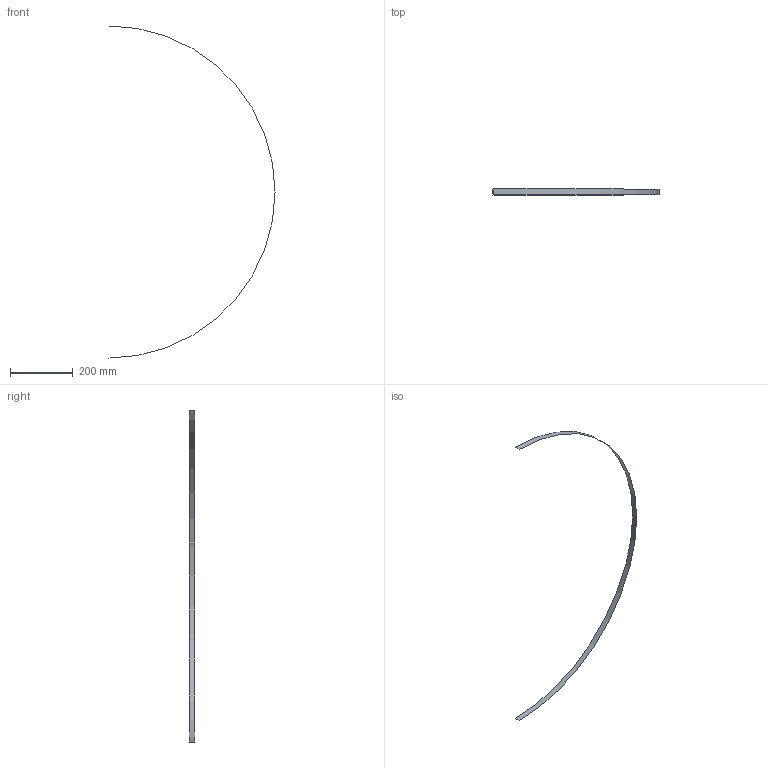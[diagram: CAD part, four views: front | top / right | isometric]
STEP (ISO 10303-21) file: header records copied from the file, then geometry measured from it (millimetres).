
FILE_DESCRIPTION(/* description */ (''),/* implementation_level */ '2;1');
FILE_NAME(/* name */ 'CourroieV2D.stp',/* time_stamp */ '2026-10-23T11:59:04+02:00',/* author */ (''),/* organization */ (''),/* preprocessor_version */ 'ST-DEVELOPER v20',/* originating_system */ 'SIEMENS PLM Software NX2506.5001',/* authorisation */ '');
FILE_SCHEMA (('AUTOMOTIVE_DESIGN { 1 0 10303 214 3 1 1 1 }'));
Length unit declared in the file: millimetre
Products named in the file (1): CourroieV
Bounding box: 529.4 x 18 x 1058.8 mm (x, y, z)
Surface area: 29936.9 mm2 (no closed solid volume)
Topology: 0 solids, 1 shells, 1 faces, 4 edges, 4 vertices
Faces by surface type: cylinder 1
Entity records: 74 total; most frequent: DIRECTION 10, CARTESIAN_POINT 10, ORIENTED_EDGE 4, VERTEX_POINT 4, EDGE_CURVE 4, AXIS2_PLACEMENT_3D 4, LINE 2, VECTOR 2
